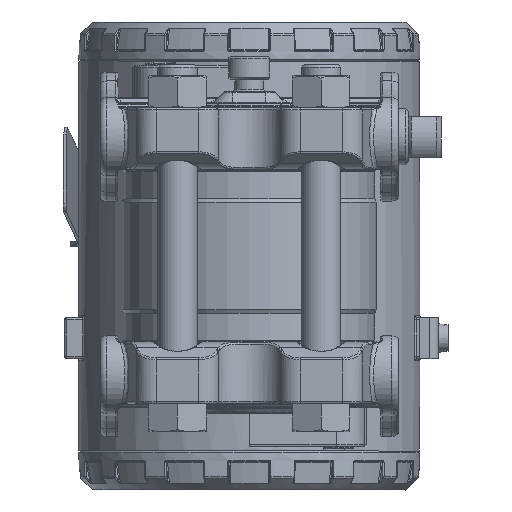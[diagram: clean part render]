
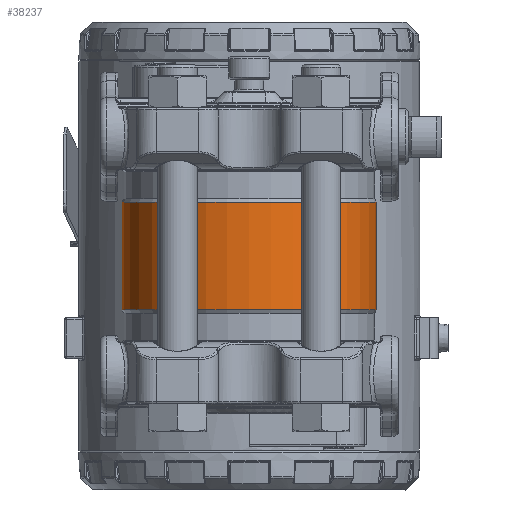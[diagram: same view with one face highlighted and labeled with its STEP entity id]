
A CAD part, left-side view. The second image highlights one B-rep face of the part: STEP entity #38237.
In plain terms, the highlighted cylindrical face has radius 31 mm (diameter 62 mm), a full revolution.
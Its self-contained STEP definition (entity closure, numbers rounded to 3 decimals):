
#2334=B_SPLINE_CURVE_WITH_KNOTS('',3,(#69640,#69641,#69642,#69643,#69644,
#69645),.UNSPECIFIED.,.F.,.F.,(4,1,1,4),(0.,0.548,0.913,
1.279),.UNSPECIFIED.);
#2335=B_SPLINE_CURVE_WITH_KNOTS('',3,(#69689,#69690,#69691,#69692,#69693,
#69694,#69695),.UNSPECIFIED.,.F.,.F.,(4,1,1,1,4),(0.,0.274,
0.548,0.913,1.279),.UNSPECIFIED.);
#2336=B_SPLINE_CURVE_WITH_KNOTS('',3,(#69732,#69733,#69734,#69735,#69736,
#69737),.UNSPECIFIED.,.F.,.F.,(4,1,1,4),(0.,0.548,0.913,
1.279),.UNSPECIFIED.);
#2337=B_SPLINE_CURVE_WITH_KNOTS('',3,(#69779,#69780,#69781,#69782,#69783,
#69784,#69785),.UNSPECIFIED.,.F.,.F.,(4,1,1,1,4),(0.,
0.274,0.548,0.913,1.279),
 .UNSPECIFIED.);
#3927=CYLINDRICAL_SURFACE('',#42316,31.);
#5236=FACE_OUTER_BOUND('',#7812,.T.);
#7812=EDGE_LOOP('',(#29390,#29391,#29392,#29393,#29394,#29395,#29396,#29397,
#29398,#29399,#29400,#29401,#29402,#29403,#29404,#29405,#29406,#29407));
#9983=LINE('',#69607,#11360);
#9984=LINE('',#69699,#11361);
#9985=LINE('',#69787,#11362);
#9986=LINE('',#69788,#11363);
#11360=VECTOR('',#49925,10.);
#11361=VECTOR('',#49942,10.);
#11362=VECTOR('',#49955,31.);
#11363=VECTOR('',#49956,31.);
#13318=CIRCLE('',#42170,31.);
#13319=CIRCLE('',#42171,31.);
#13324=CIRCLE('',#42178,31.);
#13325=CIRCLE('',#42179,31.);
#13398=CIRCLE('',#42306,31.);
#13399=CIRCLE('',#42307,31.);
#13404=CIRCLE('',#42314,31.);
#13405=CIRCLE('',#42315,31.);
#16509=VERTEX_POINT('',#69091);
#16510=VERTEX_POINT('',#69092);
#16516=VERTEX_POINT('',#69108);
#16517=VERTEX_POINT('',#69110);
#16596=VERTEX_POINT('',#69603);
#16597=VERTEX_POINT('',#69605);
#16598=VERTEX_POINT('',#69638);
#16599=VERTEX_POINT('',#69647);
#16600=VERTEX_POINT('',#69649);
#16601=VERTEX_POINT('',#69687);
#16602=VERTEX_POINT('',#69697);
#16603=VERTEX_POINT('',#69730);
#16604=VERTEX_POINT('',#69739);
#16605=VERTEX_POINT('',#69741);
#20942=EDGE_CURVE('',#16509,#16510,#13318,.T.);
#20943=EDGE_CURVE('',#16510,#16509,#13319,.T.);
#20951=EDGE_CURVE('',#16517,#16516,#13324,.T.);
#20952=EDGE_CURVE('',#16516,#16517,#13325,.T.);
#21077=EDGE_CURVE('',#16597,#16596,#9983,.T.);
#21079=EDGE_CURVE('',#16598,#16597,#2334,.T.);
#21081=EDGE_CURVE('',#16599,#16600,#13398,.T.);
#21082=EDGE_CURVE('',#16600,#16598,#13399,.T.);
#21084=EDGE_CURVE('',#16601,#16599,#2335,.T.);
#21086=EDGE_CURVE('',#16602,#16601,#9984,.T.);
#21088=EDGE_CURVE('',#16603,#16602,#2336,.T.);
#21090=EDGE_CURVE('',#16604,#16605,#13404,.T.);
#21091=EDGE_CURVE('',#16605,#16603,#13405,.T.);
#21092=EDGE_CURVE('',#16596,#16604,#2337,.T.);
#21093=EDGE_CURVE('',#16517,#16605,#9985,.T.);
#21094=EDGE_CURVE('',#16600,#16509,#9986,.T.);
#29390=ORIENTED_EDGE('',*,*,#20951,.T.);
#29391=ORIENTED_EDGE('',*,*,#20952,.T.);
#29392=ORIENTED_EDGE('',*,*,#21093,.T.);
#29393=ORIENTED_EDGE('',*,*,#21090,.F.);
#29394=ORIENTED_EDGE('',*,*,#21092,.F.);
#29395=ORIENTED_EDGE('',*,*,#21077,.F.);
#29396=ORIENTED_EDGE('',*,*,#21079,.F.);
#29397=ORIENTED_EDGE('',*,*,#21082,.F.);
#29398=ORIENTED_EDGE('',*,*,#21094,.T.);
#29399=ORIENTED_EDGE('',*,*,#20942,.T.);
#29400=ORIENTED_EDGE('',*,*,#20943,.T.);
#29401=ORIENTED_EDGE('',*,*,#21094,.F.);
#29402=ORIENTED_EDGE('',*,*,#21081,.F.);
#29403=ORIENTED_EDGE('',*,*,#21084,.F.);
#29404=ORIENTED_EDGE('',*,*,#21086,.F.);
#29405=ORIENTED_EDGE('',*,*,#21088,.F.);
#29406=ORIENTED_EDGE('',*,*,#21091,.F.);
#29407=ORIENTED_EDGE('',*,*,#21093,.F.);
#38237=ADVANCED_FACE('',(#5236),#3927,.T.);
#42170=AXIS2_PLACEMENT_3D('',#69093,#49618,#49619);
#42171=AXIS2_PLACEMENT_3D('',#69094,#49620,#49621);
#42178=AXIS2_PLACEMENT_3D('',#69111,#49637,#49638);
#42179=AXIS2_PLACEMENT_3D('',#69112,#49639,#49640);
#42306=AXIS2_PLACEMENT_3D('',#69650,#49932,#49933);
#42307=AXIS2_PLACEMENT_3D('',#69651,#49934,#49935);
#42314=AXIS2_PLACEMENT_3D('',#69742,#49949,#49950);
#42315=AXIS2_PLACEMENT_3D('',#69743,#49951,#49952);
#42316=AXIS2_PLACEMENT_3D('',#69786,#49953,#49954);
#49618=DIRECTION('center_axis',(0.,0.,1.));
#49619=DIRECTION('ref_axis',(-1.,0.,0.));
#49620=DIRECTION('center_axis',(0.,0.,1.));
#49621=DIRECTION('ref_axis',(-1.,0.,0.));
#49637=DIRECTION('center_axis',(0.,0.,-1.));
#49638=DIRECTION('ref_axis',(-1.,0.,0.));
#49639=DIRECTION('center_axis',(0.,0.,-1.));
#49640=DIRECTION('ref_axis',(-1.,0.,0.));
#49925=DIRECTION('',(0.,0.,1.));
#49932=DIRECTION('center_axis',(0.,0.,1.));
#49933=DIRECTION('ref_axis',(1.,0.,0.));
#49934=DIRECTION('center_axis',(0.,0.,1.));
#49935=DIRECTION('ref_axis',(1.,0.,0.));
#49942=DIRECTION('',(0.,0.,-1.));
#49949=DIRECTION('center_axis',(0.,0.,-1.));
#49950=DIRECTION('ref_axis',(1.,0.,0.));
#49951=DIRECTION('center_axis',(0.,0.,-1.));
#49952=DIRECTION('ref_axis',(1.,0.,0.));
#49953=DIRECTION('center_axis',(0.,0.,1.));
#49954=DIRECTION('ref_axis',(-1.,0.,0.));
#49955=DIRECTION('',(0.,0.,-1.));
#49956=DIRECTION('',(0.,0.,-1.));
#69091=CARTESIAN_POINT('',(31.,0.,-13.134));
#69092=CARTESIAN_POINT('',(-31.,0.,-13.134));
#69093=CARTESIAN_POINT('Origin',(0.,0.,-13.134));
#69094=CARTESIAN_POINT('Origin',(0.,0.,-13.134));
#69108=CARTESIAN_POINT('',(-31.,0.,13.134));
#69110=CARTESIAN_POINT('',(31.,0.,13.134));
#69111=CARTESIAN_POINT('Origin',(0.,0.,13.134));
#69112=CARTESIAN_POINT('Origin',(0.,0.,13.134));
#69603=CARTESIAN_POINT('',(28.645,11.853,5.));
#69605=CARTESIAN_POINT('',(28.645,11.853,-5.));
#69607=CARTESIAN_POINT('',(28.645,11.853,0.));
#69638=CARTESIAN_POINT('',(30.663,4.559,-13.));
#69640=CARTESIAN_POINT('Ctrl Pts',(30.663,4.559,-13.));
#69641=CARTESIAN_POINT('Ctrl Pts',(30.418,6.206,-13.));
#69642=CARTESIAN_POINT('Ctrl Pts',(29.764,8.89,-11.953));
#69643=CARTESIAN_POINT('Ctrl Pts',(28.867,11.328,-8.643));
#69644=CARTESIAN_POINT('Ctrl Pts',(28.645,11.853,-6.218));
#69645=CARTESIAN_POINT('Ctrl Pts',(28.645,11.853,-5.));
#69647=CARTESIAN_POINT('',(30.663,-4.559,-13.));
#69649=CARTESIAN_POINT('',(31.,0.,-13.));
#69650=CARTESIAN_POINT('Origin',(0.,0.,-13.));
#69651=CARTESIAN_POINT('Origin',(0.,0.,-13.));
#69687=CARTESIAN_POINT('',(28.645,-11.853,-5.));
#69689=CARTESIAN_POINT('Ctrl Pts',(28.645,-11.853,-5.));
#69690=CARTESIAN_POINT('Ctrl Pts',(28.645,-11.853,-5.913));
#69691=CARTESIAN_POINT('Ctrl Pts',(28.767,-11.563,-7.738));
#69692=CARTESIAN_POINT('Ctrl Pts',(29.292,-10.206,-10.383));
#69693=CARTESIAN_POINT('Ctrl Pts',(30.048,-7.829,-12.448));
#69694=CARTESIAN_POINT('Ctrl Pts',(30.5,-5.657,-13.));
#69695=CARTESIAN_POINT('Ctrl Pts',(30.663,-4.559,-13.));
#69697=CARTESIAN_POINT('',(28.645,-11.853,5.));
#69699=CARTESIAN_POINT('',(28.645,-11.853,0.));
#69730=CARTESIAN_POINT('',(30.663,-4.559,13.));
#69732=CARTESIAN_POINT('Ctrl Pts',(30.663,-4.559,13.));
#69733=CARTESIAN_POINT('Ctrl Pts',(30.418,-6.206,13.));
#69734=CARTESIAN_POINT('Ctrl Pts',(29.764,-8.89,11.953));
#69735=CARTESIAN_POINT('Ctrl Pts',(28.867,-11.328,8.643));
#69736=CARTESIAN_POINT('Ctrl Pts',(28.645,-11.853,6.218));
#69737=CARTESIAN_POINT('Ctrl Pts',(28.645,-11.853,5.));
#69739=CARTESIAN_POINT('',(30.663,4.559,13.));
#69741=CARTESIAN_POINT('',(31.,0.,13.));
#69742=CARTESIAN_POINT('Origin',(0.,0.,13.));
#69743=CARTESIAN_POINT('Origin',(0.,0.,13.));
#69779=CARTESIAN_POINT('Ctrl Pts',(28.645,11.853,5.));
#69780=CARTESIAN_POINT('Ctrl Pts',(28.645,11.853,5.913));
#69781=CARTESIAN_POINT('Ctrl Pts',(28.767,11.563,7.738));
#69782=CARTESIAN_POINT('Ctrl Pts',(29.292,10.206,10.383));
#69783=CARTESIAN_POINT('Ctrl Pts',(30.048,7.829,12.448));
#69784=CARTESIAN_POINT('Ctrl Pts',(30.5,5.657,13.));
#69785=CARTESIAN_POINT('Ctrl Pts',(30.663,4.559,13.));
#69786=CARTESIAN_POINT('Origin',(0.,0.,0.));
#69787=CARTESIAN_POINT('',(31.,0.,0.));
#69788=CARTESIAN_POINT('',(31.,0.,0.));
